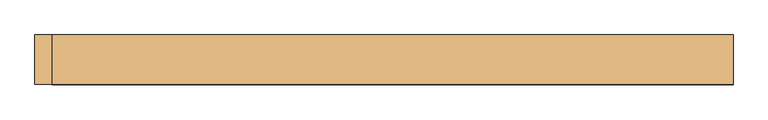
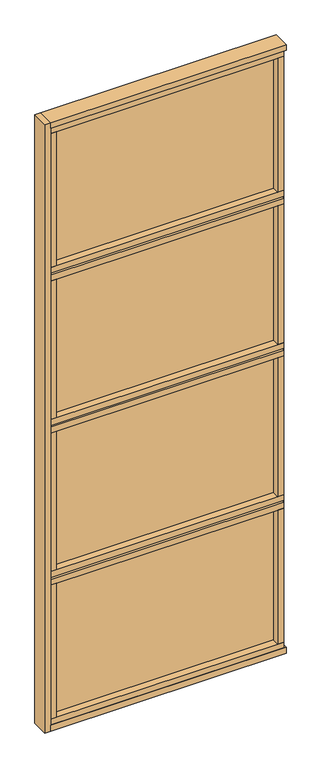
"""IFC4 building model written with IfcOpenShell, lengths in millimetres: door geometry, Mobiliário_Mobiliário de Escritório_Painel de Vidro Simples - AU4T (Inicial e Final)_Marelli : AU4T - Temperado."""

from ifc_helpers import new_model, si_unit, frame, origin, origin_with_axes, place, context, project, spatial, polyline, outline, extrude, source, transform, mapped, element, save


def door_d8251e47(model_context):
    return source(origin(), model_context, "Body", "SweptSolid", [
        extrude(outline(polyline([(600.0, 42.5), (600.0, -42.5), (-570.0, -42.5), (-570.0, 42.5), (600.0, 42.5)])), origin_with_axes(), (0.0, 0.0, 1.0), 30.0),
        extrude(outline(polyline([(590.0, 39.5), (590.0, -39.5), (-570.0, -39.5), (-570.0, 39.5), (590.0, 39.5)])), frame((0.0, 0.0, 2405.0), z_axis=(0.0, 0.0, 1.0), x_axis=(1.0, 0.0, 0.0)), (0.0, 0.0, 1.0), 30.0),
        extrude(outline(polyline([(-540.0, 39.5), (-540.0, -39.5), (-570.0, -39.5), (-570.0, 39.5), (-540.0, 39.5)])), frame((0.0, 0.0, 2435.0), z_axis=(0.0, 0.0, 1.0), x_axis=(1.0, 0.0, 0.0)), (0.0, 0.0, 1.0), 705.0),
        extrude(outline(polyline([(560.0, 39.5), (590.0, 39.5), (590.0, -39.5), (560.0, -39.5), (560.0, 39.5)])), frame((0.0, 0.0, 2435.0), z_axis=(0.0, 0.0, 1.0), x_axis=(1.0, 0.0, 0.0)), (0.0, 0.0, 1.0), 705.0),
        extrude(outline(polyline([(560.0, 3.0), (560.0, -3.0), (-540.0, -3.0), (-540.0, 3.0), (560.0, 3.0)])), frame((0.0, 0.0, 2435.0), z_axis=(0.0, 0.0, 1.0), x_axis=(1.0, 0.0, 0.0)), (0.0, 0.0, 1.0), 705.0),
        extrude(outline(polyline([(590.0, 21.5), (590.0, -21.5), (-570.0, -21.5), (-570.0, 21.5), (590.0, 21.5)])), frame((0.0, 0.0, 2395.0), z_axis=(0.0, 0.0, 1.0), x_axis=(1.0, 0.0, 0.0)), (0.0, 0.0, 1.0), 10.0),
        extrude(outline(polyline([(590.0, 21.5), (590.0, -21.5), (-570.0, -21.5), (-570.0, 21.5), (590.0, 21.5)])), frame((0.0, 0.0, 1595.0), z_axis=(0.0, 0.0, 1.0), x_axis=(1.0, 0.0, 0.0)), (0.0, 0.0, 1.0), 10.0),
        extrude(outline(polyline([(590.0, 21.5), (590.0, -21.5), (-570.0, -21.5), (-570.0, 21.5), (590.0, 21.5)])), frame((0.0, 0.0, 795.0), z_axis=(0.0, 0.0, 1.0), x_axis=(1.0, 0.0, 0.0)), (0.0, 0.0, 1.0), 10.0),
        extrude(outline(polyline([(590.0, 39.5), (590.0, -39.5), (-570.0, -39.5), (-570.0, 39.5), (590.0, 39.5)])), frame((0.0, 0.0, 1605.0), z_axis=(0.0, 0.0, 1.0), x_axis=(1.0, 0.0, 0.0)), (0.0, 0.0, 1.0), 30.0),
        extrude(outline(polyline([(590.0, 39.5), (590.0, -39.5), (-570.0, -39.5), (-570.0, 39.5), (590.0, 39.5)])), frame((0.0, 0.0, 2365.0), z_axis=(0.0, 0.0, 1.0), x_axis=(1.0, 0.0, 0.0)), (0.0, 0.0, 1.0), 30.0),
        extrude(outline(polyline([(590.0, 39.5), (590.0, -39.5), (-570.0, -39.5), (-570.0, 39.5), (590.0, 39.5)])), frame((0.0, 0.0, 1565.0), z_axis=(0.0, 0.0, 1.0), x_axis=(1.0, 0.0, 0.0)), (0.0, 0.0, 1.0), 30.0),
        extrude(outline(polyline([(590.0, 39.5), (590.0, -39.5), (-570.0, -39.5), (-570.0, 39.5), (590.0, 39.5)])), frame((0.0, 0.0, 805.0), z_axis=(0.0, 0.0, 1.0), x_axis=(1.0, 0.0, 0.0)), (0.0, 0.0, 1.0), 30.0),
        extrude(outline(polyline([(-540.0, 39.5), (-540.0, -39.5), (-570.0, -39.5), (-570.0, 39.5), (-540.0, 39.5)])), frame((0.0, 0.0, 60.0), z_axis=(0.0, 0.0, 1.0), x_axis=(1.0, 0.0, 0.0)), (0.0, 0.0, 1.0), 705.0),
        extrude(outline(polyline([(560.0, 39.5), (590.0, 39.5), (590.0, -39.5), (560.0, -39.5), (560.0, 39.5)])), frame((0.0, 0.0, 60.0), z_axis=(0.0, 0.0, 1.0), x_axis=(1.0, 0.0, 0.0)), (0.0, 0.0, 1.0), 705.0),
        extrude(outline(polyline([(590.0, 39.5), (590.0, -39.5), (-570.0, -39.5), (-570.0, 39.5), (590.0, 39.5)])), frame((0.0, 0.0, 765.0), z_axis=(0.0, 0.0, 1.0), x_axis=(1.0, 0.0, 0.0)), (0.0, 0.0, 1.0), 30.0),
        extrude(outline(polyline([(590.0, 39.5), (590.0, -39.5), (-570.0, -39.5), (-570.0, 39.5), (590.0, 39.5)])), frame((0.0, 0.0, 30.0), z_axis=(0.0, 0.0, 1.0), x_axis=(1.0, 0.0, 0.0)), (0.0, 0.0, 1.0), 30.0),
        extrude(outline(polyline([(560.0, 3.0), (560.0, -3.0), (-540.0, -3.0), (-540.0, 3.0), (560.0, 3.0)])), frame((0.0, 0.0, 60.0), z_axis=(0.0, 0.0, 1.0), x_axis=(1.0, 0.0, 0.0)), (0.0, 0.0, 1.0), 705.0),
        extrude(outline(polyline([(600.0, 42.5), (600.0, -42.5), (-570.0, -42.5), (-570.0, 42.5), (600.0, 42.5)])), frame((0.0, 0.0, 3170.0), z_axis=(0.0, 0.0, 1.0), x_axis=(1.0, 0.0, 0.0)), (0.0, 0.0, 1.0), 30.0),
        extrude(outline(polyline([(590.0, 39.5), (590.0, -39.5), (-570.0, -39.5), (-570.0, 39.5), (590.0, 39.5)])), frame((0.0, 0.0, 3140.0), z_axis=(0.0, 0.0, 1.0), x_axis=(1.0, 0.0, 0.0)), (0.0, 0.0, 1.0), 30.0),
        extrude(outline(polyline([(-600.0, -42.5), (-600.0, 42.5), (-570.0, 42.5), (-570.0, -42.5), (-600.0, -42.5)])), origin_with_axes(), (0.0, 0.0, 1.0), 3200.0),
        extrude(outline(polyline([(590.0, 21.5), (600.0, 21.5), (600.0, -21.5), (590.0, -21.5), (590.0, 21.5)])), frame((0.0, 0.0, 30.0), z_axis=(0.0, 0.0, 1.0), x_axis=(1.0, 0.0, 0.0)), (0.0, 0.0, 1.0), 3140.0),
        extrude(outline(polyline([(-540.0, 39.5), (-540.0, -39.5), (-570.0, -39.5), (-570.0, 39.5), (-540.0, 39.5)])), frame((0.0, 0.0, 1635.0), z_axis=(0.0, 0.0, 1.0), x_axis=(1.0, 0.0, 0.0)), (0.0, 0.0, 1.0), 730.0),
        extrude(outline(polyline([(560.0, 39.5), (590.0, 39.5), (590.0, -39.5), (560.0, -39.5), (560.0, 39.5)])), frame((0.0, 0.0, 1635.0), z_axis=(0.0, 0.0, 1.0), x_axis=(1.0, 0.0, 0.0)), (0.0, 0.0, 1.0), 730.0),
        extrude(outline(polyline([(560.0, 3.0), (560.0, -3.0), (-540.0, -3.0), (-540.0, 3.0), (560.0, 3.0)])), frame((0.0, 0.0, 1635.0), z_axis=(0.0, 0.0, 1.0), x_axis=(1.0, 0.0, 0.0)), (0.0, 0.0, 1.0), 730.0),
        extrude(outline(polyline([(-540.0, 39.5), (-540.0, -39.5), (-570.0, -39.5), (-570.0, 39.5), (-540.0, 39.5)])), frame((0.0, 0.0, 835.0), z_axis=(0.0, 0.0, 1.0), x_axis=(1.0, 0.0, 0.0)), (0.0, 0.0, 1.0), 730.0),
        extrude(outline(polyline([(560.0, 39.5), (590.0, 39.5), (590.0, -39.5), (560.0, -39.5), (560.0, 39.5)])), frame((0.0, 0.0, 835.0), z_axis=(0.0, 0.0, 1.0), x_axis=(1.0, 0.0, 0.0)), (0.0, 0.0, 1.0), 730.0),
        extrude(outline(polyline([(560.0, 3.0), (560.0, -3.0), (-540.0, -3.0), (-540.0, 3.0), (560.0, 3.0)])), frame((0.0, 0.0, 835.0), z_axis=(0.0, 0.0, 1.0), x_axis=(1.0, 0.0, 0.0)), (0.0, 0.0, 1.0), 730.0),
    ])


if __name__ == "__main__":
    model = new_model("IFC4")
    model_context = context("Model", 3, world=origin())
    ifc_project = project(units=[si_unit("LENGTHUNIT", "METRE", prefix="MILLI")], contexts=[model_context])
    site = spatial("IfcSite", under=ifc_project)
    building = spatial("IfcBuilding", under=site)
    placement = place(None, origin())
    door_shape = door_d8251e47(model_context)
    element("IfcDoor", 1, ObjectType="Mobiliário_Mobiliário de Escritório_Painel de Vidro Simples - AU4T (Inicial e Final)_Marelli : AU4T - Temperado", at=placement, inside=building, context=model_context, shape_type="MappedRepresentation", body=[
        mapped(door_shape, transform((0.0, 0.0, 0.0), x_axis=(1.0, 0.0, 0.0), y_axis=(0.0, 1.0, 0.0), z_axis=(0.0, 0.0, 1.0))),
    ])
    save(model, "model.ifc")
